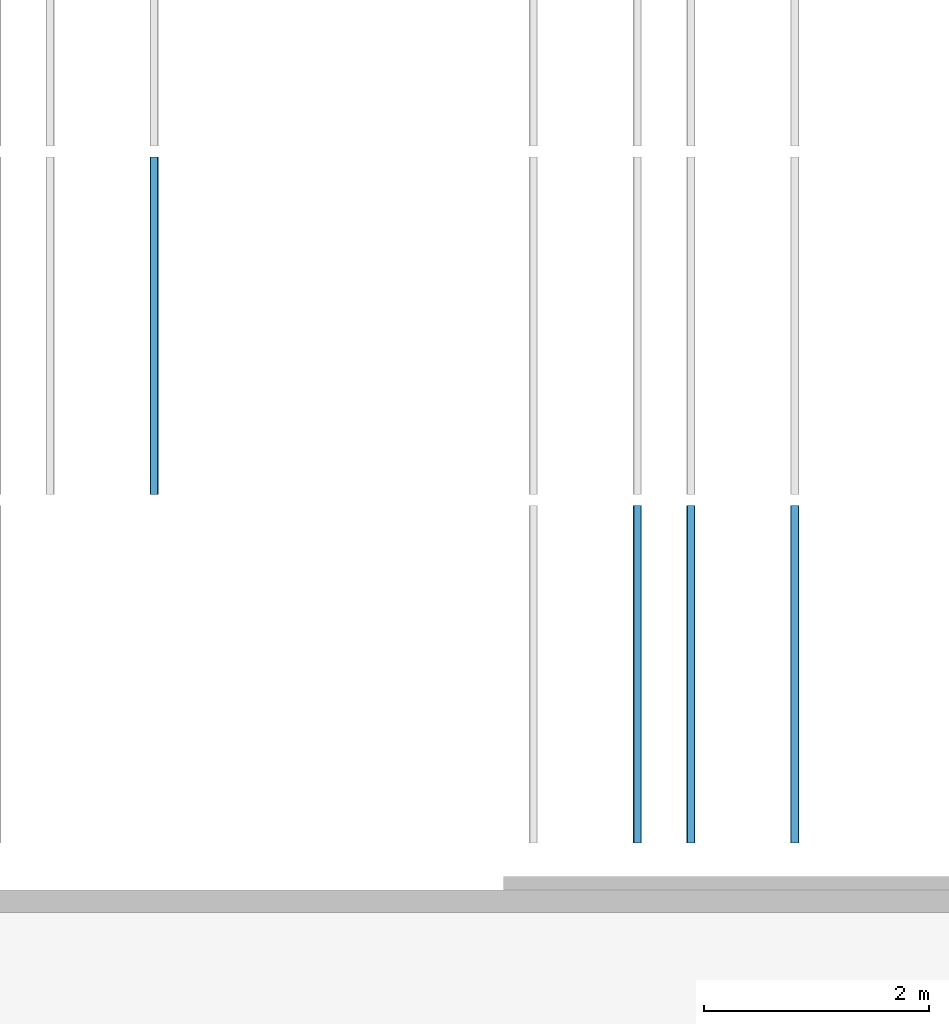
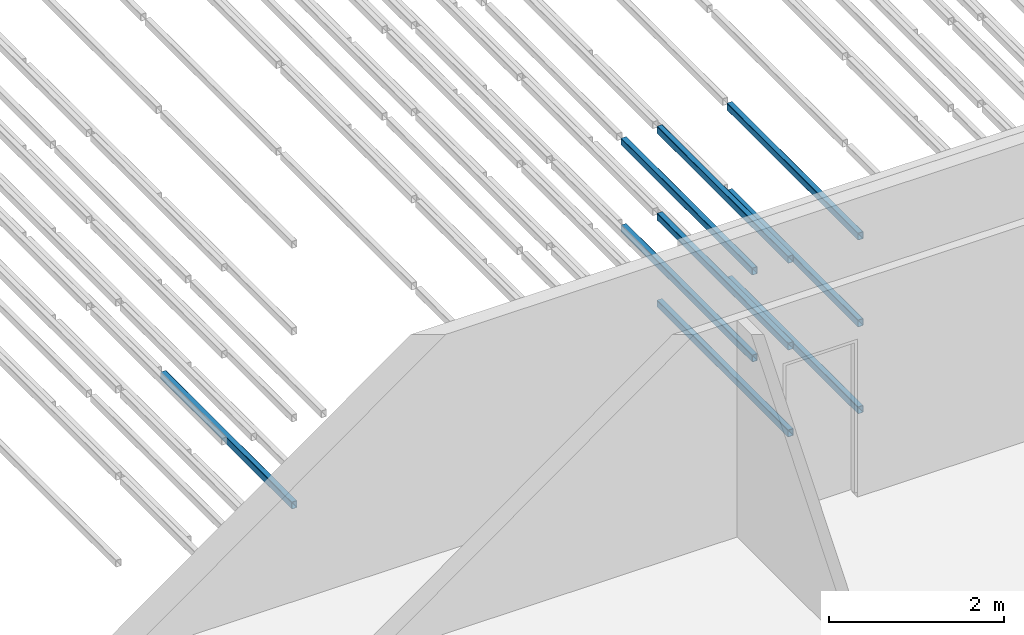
# One storey, part 24 of 290: 9 beams.
"""IFC2X3 building model written with IfcOpenShell, lengths in metres."""

from ifc_helpers import new_model, entity, si_unit, converted_unit, derived_unit, direction, frame, frame_2d, origin, place, context, subcontext, project, spatial, polyline, circle_curve, parameter, trimmed, segment, composite_curve, outline, extrude, material, type_object, element, save


model = new_model("IFC2X3")

# Units and contexts
model_context = context("Model", 3, precision=1e-05, world=origin(), true_north=direction((6.12303176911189e-17, 1.0)))
body_context = subcontext(model_context, "Body", "Model", "MODEL_VIEW")
ifc_project = project(units=[si_unit("LENGTHUNIT", "METRE"), si_unit("AREAUNIT", "SQUARE_METRE"), si_unit("VOLUMEUNIT", "CUBIC_METRE"), converted_unit("PLANEANGLEUNIT", "DEGREE", entity("IfcRatioMeasure", 0.0174532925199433), si_unit("PLANEANGLEUNIT", "RADIAN"), dimensions=[0, 0, 0, 0, 0, 0, 0]), si_unit("MASSUNIT", "GRAM", prefix="KILO"), derived_unit("MASSDENSITYUNIT", [(si_unit("MASSUNIT", "GRAM", prefix="KILO"), 1), (si_unit("LENGTHUNIT", "METRE"), -3)]), derived_unit("MOMENTOFINERTIAUNIT", [(si_unit("LENGTHUNIT", "METRE"), 4)]), si_unit("TIMEUNIT", "SECOND"), si_unit("FREQUENCYUNIT", "HERTZ"), si_unit("THERMODYNAMICTEMPERATUREUNIT", "DEGREE_CELSIUS"), derived_unit("THERMALTRANSMITTANCEUNIT", [(si_unit("MASSUNIT", "GRAM", prefix="KILO"), 1), (si_unit("THERMODYNAMICTEMPERATUREUNIT", "KELVIN"), -1), (si_unit("TIMEUNIT", "SECOND"), -3)]), derived_unit("VOLUMETRICFLOWRATEUNIT", [(si_unit("LENGTHUNIT", "METRE"), 3), (si_unit("TIMEUNIT", "SECOND"), -1)]), si_unit("ELECTRICCURRENTUNIT", "AMPERE"), si_unit("ELECTRICVOLTAGEUNIT", "VOLT"), si_unit("POWERUNIT", "WATT"), si_unit("FORCEUNIT", "NEWTON", prefix="KILO"), si_unit("ILLUMINANCEUNIT", "LUX"), si_unit("LUMINOUSFLUXUNIT", "LUMEN"), si_unit("LUMINOUSINTENSITYUNIT", "CANDELA"), derived_unit("USERDEFINED", [(si_unit("MASSUNIT", "GRAM", prefix="KILO"), -1), (si_unit("LENGTHUNIT", "METRE"), -2), (si_unit("TIMEUNIT", "SECOND"), 3), (si_unit("LUMINOUSFLUXUNIT", "LUMEN"), 1)]), derived_unit("LINEARVELOCITYUNIT", [(si_unit("LENGTHUNIT", "METRE"), 1), (si_unit("TIMEUNIT", "SECOND"), -1)]), si_unit("PRESSUREUNIT", "PASCAL"), derived_unit("USERDEFINED", [(si_unit("LENGTHUNIT", "METRE"), -2), (si_unit("MASSUNIT", "GRAM", prefix="KILO"), 1), (si_unit("TIMEUNIT", "SECOND"), -2)]), derived_unit("LINEARFORCEUNIT", [(si_unit("MASSUNIT", "GRAM", prefix="KILO"), 1), (si_unit("LENGTHUNIT", "METRE"), 1), (si_unit("TIMEUNIT", "SECOND"), -2), (si_unit("LENGTHUNIT", "METRE"), -1)]), derived_unit("PLANARFORCEUNIT", [(si_unit("MASSUNIT", "GRAM", prefix="KILO"), 1), (si_unit("LENGTHUNIT", "METRE"), 1), (si_unit("TIMEUNIT", "SECOND"), -2), (si_unit("LENGTHUNIT", "METRE"), -2)])], contexts=[model_context])

# Site, building, storey
site_placement = place(None, origin())
site = spatial("IfcSite", under=ifc_project, at=site_placement, Name="Default", CompositionType="ELEMENT")
building_placement = place(site_placement, origin())
building = spatial("IfcBuilding", under=site, at=building_placement, CompositionType="ELEMENT")
storey_placement = place(building_placement, frame((0.0, 0.0, 4.0)))
storey = spatial("IfcBuildingStorey", under=building, at=storey_placement, Name="01_OG", CompositionType="ELEMENT", Elevation=4.0)

# Beams
ifc_material = material(Name="Metall - Baustahl S235 blau")
beam_type = type_object("IfcBeamType", Name="RHS Träger (EN 10219-2):RHS 100 x 75 x 5", PredefinedType="NOTDEFINED")
beam_1_placement = place(storey_placement, frame((-189.865111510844, 24.048088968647, 1.23), z_axis=(0.0, 0.0, 1.0), x_axis=(0.0, 1.0, 0.0)))
element("IfcBeam", 1, at=beam_1_placement, inside=storey, type_object=beam_type, material=ifc_material, Name="RHS Träger (EN 10219-2):RHS 100 x 75 x 5", ObjectType="RHS Träger (EN 10219-2):RHS 100 x 75 x 5", context=body_context, shape_type="SweptSolid", body=[
    extrude(outline(composite_curve([segment(polyline([(-0.0399999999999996, -0.0374999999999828), (0.0399999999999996, -0.0374999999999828)]), True, "CONTINUOUS"), segment(trimmed(circle_curve(frame_2d((0.0399999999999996, -0.0274999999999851), x_axis=(0.0, 1.0)), 0.01), [parameter(180.0)], [parameter(270.0)], True, "PARAMETER"), True, "CONTINUOUS"), segment(polyline([(0.0500000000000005, -0.0274999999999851), (0.0500000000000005, 0.0274999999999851)]), True, "CONTINUOUS"), segment(trimmed(circle_curve(frame_2d((0.0399999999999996, 0.0274999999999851), x_axis=(0.0, 1.0)), 0.01), [parameter(270.0)], [parameter(4.07110999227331e-13)], True, "PARAMETER"), True, "CONTINUOUS"), segment(polyline([(0.0399999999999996, 0.0375000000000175), (-0.0399999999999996, 0.0375000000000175)]), True, "CONTINUOUS"), segment(trimmed(circle_curve(frame_2d((-0.0399999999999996, 0.0274999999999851), x_axis=(0.0, 1.0)), 0.01), [parameter(360.0)], [parameter(90.0000000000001)], True, "PARAMETER"), True, "CONTINUOUS"), segment(polyline([(-0.0499999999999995, 0.0274999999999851), (-0.0499999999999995, -0.0274999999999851)]), True, "CONTINUOUS"), segment(trimmed(circle_curve(frame_2d((-0.0399999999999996, -0.0274999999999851), x_axis=(0.0, 1.0)), 0.01), [parameter(90.0000000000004)], [parameter(180.0)], True, "PARAMETER"), True, "CONTINUOUS")], self_intersect=False), holes=[composite_curve([segment(trimmed(circle_curve(frame_2d((-0.0400000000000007, 0.0274999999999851), x_axis=(0.0, 1.0)), 0.005), [parameter(360.0)], [parameter(89.9999999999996)], True, "PARAMETER"), False, "CONTINUOUS"), segment(polyline([(-0.0400000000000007, 0.0325000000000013), (0.0399999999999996, 0.0325000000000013)]), True, "CONTINUOUS"), segment(trimmed(circle_curve(frame_2d((0.0399999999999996, 0.0274999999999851), x_axis=(0.0, 1.0)), 0.005), [parameter(270.0)], [parameter(0.0)], True, "PARAMETER"), False, "CONTINUOUS"), segment(polyline([(0.0449999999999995, 0.0274999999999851), (0.0449999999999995, -0.0274999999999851)]), True, "CONTINUOUS"), segment(trimmed(circle_curve(frame_2d((0.0399999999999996, -0.0274999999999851), x_axis=(0.0, 1.0)), 0.005), [parameter(180.0)], [parameter(269.999999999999)], True, "PARAMETER"), False, "CONTINUOUS"), segment(polyline([(0.0399999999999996, -0.0325000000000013), (-0.0400000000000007, -0.0325000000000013)]), True, "CONTINUOUS"), segment(trimmed(circle_curve(frame_2d((-0.0400000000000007, -0.0274999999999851), x_axis=(0.0, 1.0)), 0.005), [parameter(90.0000000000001)], [parameter(180.0)], True, "PARAMETER"), False, "CONTINUOUS"), segment(polyline([(-0.0450000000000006, -0.0274999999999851), (-0.0450000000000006, 0.0274999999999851)]), True, "CONTINUOUS")], self_intersect=False)]), frame((9.99999999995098e-05, -0.0375000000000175, -0.0500000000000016), z_axis=(1.0, 0.0, 0.0), x_axis=(0.0, 0.0, -1.0)), (0.0, 0.0, 1.0), 2.9998),
])
beam_2_placement = place(storey_placement, frame((-189.865111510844, 24.048088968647, 2.445), z_axis=(0.0, 0.0, 1.0), x_axis=(0.0, 1.0, 0.0)))
element("IfcBeam", 2, at=beam_2_placement, inside=storey, type_object=beam_type, material=ifc_material, Name="RHS Träger (EN 10219-2):RHS 100 x 75 x 5", ObjectType="RHS Träger (EN 10219-2):RHS 100 x 75 x 5", context=body_context, shape_type="SweptSolid", body=[
    extrude(outline(composite_curve([segment(polyline([(-0.0399999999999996, -0.0374999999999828), (0.0399999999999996, -0.0374999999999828)]), True, "CONTINUOUS"), segment(trimmed(circle_curve(frame_2d((0.0399999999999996, -0.0274999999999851), x_axis=(0.0, 1.0)), 0.01), [parameter(180.0)], [parameter(270.0)], True, "PARAMETER"), True, "CONTINUOUS"), segment(polyline([(0.0500000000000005, -0.0274999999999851), (0.0500000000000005, 0.0274999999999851)]), True, "CONTINUOUS"), segment(trimmed(circle_curve(frame_2d((0.0399999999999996, 0.0274999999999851), x_axis=(0.0, 1.0)), 0.01), [parameter(270.0)], [parameter(4.07110999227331e-13)], True, "PARAMETER"), True, "CONTINUOUS"), segment(polyline([(0.0399999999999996, 0.0375000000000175), (-0.0399999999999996, 0.0375000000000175)]), True, "CONTINUOUS"), segment(trimmed(circle_curve(frame_2d((-0.0399999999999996, 0.0274999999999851), x_axis=(0.0, 1.0)), 0.01), [parameter(360.0)], [parameter(90.0000000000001)], True, "PARAMETER"), True, "CONTINUOUS"), segment(polyline([(-0.0499999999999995, 0.0274999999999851), (-0.0499999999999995, -0.0274999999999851)]), True, "CONTINUOUS"), segment(trimmed(circle_curve(frame_2d((-0.0399999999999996, -0.0274999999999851), x_axis=(0.0, 1.0)), 0.01), [parameter(90.0000000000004)], [parameter(180.0)], True, "PARAMETER"), True, "CONTINUOUS")], self_intersect=False), holes=[composite_curve([segment(trimmed(circle_curve(frame_2d((-0.0400000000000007, 0.0274999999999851), x_axis=(0.0, 1.0)), 0.005), [parameter(360.0)], [parameter(89.9999999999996)], True, "PARAMETER"), False, "CONTINUOUS"), segment(polyline([(-0.0400000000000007, 0.0325000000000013), (0.0399999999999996, 0.0325000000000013)]), True, "CONTINUOUS"), segment(trimmed(circle_curve(frame_2d((0.0399999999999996, 0.0274999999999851), x_axis=(0.0, 1.0)), 0.005), [parameter(270.0)], [parameter(0.0)], True, "PARAMETER"), False, "CONTINUOUS"), segment(polyline([(0.0449999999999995, 0.0274999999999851), (0.0449999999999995, -0.0274999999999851)]), True, "CONTINUOUS"), segment(trimmed(circle_curve(frame_2d((0.0399999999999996, -0.0274999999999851), x_axis=(0.0, 1.0)), 0.005), [parameter(180.0)], [parameter(269.999999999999)], True, "PARAMETER"), False, "CONTINUOUS"), segment(polyline([(0.0399999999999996, -0.0325000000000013), (-0.0400000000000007, -0.0325000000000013)]), True, "CONTINUOUS"), segment(trimmed(circle_curve(frame_2d((-0.0400000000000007, -0.0274999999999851), x_axis=(0.0, 1.0)), 0.005), [parameter(90.0000000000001)], [parameter(180.0)], True, "PARAMETER"), False, "CONTINUOUS"), segment(polyline([(-0.0450000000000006, -0.0274999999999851), (-0.0450000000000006, 0.0274999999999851)]), True, "CONTINUOUS")], self_intersect=False)]), frame((9.99999999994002e-05, -0.0375000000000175, -0.0500000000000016), z_axis=(1.0, 0.0, 0.0), x_axis=(0.0, 0.0, -1.0)), (0.0, 0.0, 1.0), 2.9998),
])
beam_3_placement = place(storey_placement, frame((-189.315111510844, 24.048088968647, 0.0150000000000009), z_axis=(0.0, 0.0, 1.0), x_axis=(0.0, 1.0, 0.0)))
element("IfcBeam", 3, at=beam_3_placement, inside=storey, type_object=beam_type, material=ifc_material, Name="RHS Träger (EN 10219-2):RHS 100 x 75 x 5", ObjectType="RHS Träger (EN 10219-2):RHS 100 x 75 x 5", context=body_context, shape_type="SweptSolid", body=[
    extrude(outline(composite_curve([segment(trimmed(circle_curve(frame_2d((-0.0275000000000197, -0.0400000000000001), x_axis=(1.0, 0.0)), 0.01), [parameter(180.0)], [parameter(270.0)], True, "PARAMETER"), True, "CONTINUOUS"), segment(polyline([(-0.0275000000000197, -0.05), (0.0274999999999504, -0.05)]), True, "CONTINUOUS"), segment(trimmed(circle_curve(frame_2d((0.0274999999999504, -0.0400000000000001), x_axis=(1.0, 0.0)), 0.01), [parameter(270.0)], [parameter(5.08888749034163e-14)], True, "PARAMETER"), True, "CONTINUOUS"), segment(polyline([(0.0374999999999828, -0.0400000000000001), (0.0374999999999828, 0.0400000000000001)]), True, "CONTINUOUS"), segment(trimmed(circle_curve(frame_2d((0.0274999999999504, 0.0400000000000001), x_axis=(1.0, 0.0)), 0.01), [parameter(360.0)], [parameter(89.9999999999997)], True, "PARAMETER"), True, "CONTINUOUS"), segment(polyline([(0.0274999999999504, 0.05), (-0.0275000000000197, 0.05)]), True, "CONTINUOUS"), segment(trimmed(circle_curve(frame_2d((-0.0275000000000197, 0.0400000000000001), x_axis=(1.0, 0.0)), 0.01), [parameter(90.0000000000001)], [parameter(180.0)], True, "PARAMETER"), True, "CONTINUOUS"), segment(polyline([(-0.0375000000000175, 0.0400000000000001), (-0.0375000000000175, -0.0400000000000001)]), True, "CONTINUOUS")], self_intersect=False), holes=[composite_curve([segment(polyline([(0.0274999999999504, -0.0450000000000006), (-0.0275000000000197, -0.0450000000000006)]), True, "CONTINUOUS"), segment(trimmed(circle_curve(frame_2d((-0.0275000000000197, -0.0400000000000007), x_axis=(1.0, 0.0)), 0.005), [parameter(180.0)], [parameter(270.0)], True, "PARAMETER"), False, "CONTINUOUS"), segment(polyline([(-0.0325000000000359, -0.0400000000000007), (-0.0325000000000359, 0.039999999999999)]), True, "CONTINUOUS"), segment(trimmed(circle_curve(frame_2d((-0.0275000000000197, 0.039999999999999), x_axis=(1.0, 0.0)), 0.005), [parameter(90.0000000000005)], [parameter(180.0)], True, "PARAMETER"), False, "CONTINUOUS"), segment(polyline([(-0.0275000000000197, 0.044999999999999), (0.0274999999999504, 0.044999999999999)]), True, "CONTINUOUS"), segment(trimmed(circle_curve(frame_2d((0.0274999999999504, 0.039999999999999), x_axis=(1.0, 0.0)), 0.005), [parameter(0.0)], [parameter(90.0000000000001)], True, "PARAMETER"), False, "CONTINUOUS"), segment(polyline([(0.0324999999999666, 0.039999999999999), (0.0324999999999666, -0.0400000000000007)]), True, "CONTINUOUS"), segment(trimmed(circle_curve(frame_2d((0.0274999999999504, -0.0400000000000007), x_axis=(1.0, 0.0)), 0.005), [parameter(270.0)], [parameter(4.07110999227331e-13)], True, "PARAMETER"), False, "CONTINUOUS")], self_intersect=False)]), frame((9.99999999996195e-05, 0.0374999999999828, -0.0500000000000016), z_axis=(1.0, 0.0, 0.0), x_axis=(0.0, -1.0, 0.0)), (0.0, 0.0, 1.0), 2.9998),
])
beam_4_placement = place(storey_placement, frame((-189.315111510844, 24.048088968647, 1.23), z_axis=(0.0, 0.0, 1.0), x_axis=(0.0, 1.0, 0.0)))
element("IfcBeam", 4, at=beam_4_placement, inside=storey, type_object=beam_type, material=ifc_material, Name="RHS Träger (EN 10219-2):RHS 100 x 75 x 5", ObjectType="RHS Träger (EN 10219-2):RHS 100 x 75 x 5", context=body_context, shape_type="SweptSolid", body=[
    extrude(outline(composite_curve([segment(trimmed(circle_curve(frame_2d((-0.0275000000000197, -0.0399999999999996), x_axis=(1.0, 0.0)), 0.01), [parameter(180.0)], [parameter(270.0)], True, "PARAMETER"), True, "CONTINUOUS"), segment(polyline([(-0.0275000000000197, -0.0499999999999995), (0.0274999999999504, -0.0499999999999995)]), True, "CONTINUOUS"), segment(trimmed(circle_curve(frame_2d((0.0274999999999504, -0.0399999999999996), x_axis=(1.0, 0.0)), 0.01), [parameter(270.0)], [parameter(5.08888749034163e-14)], True, "PARAMETER"), True, "CONTINUOUS"), segment(polyline([(0.0374999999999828, -0.0399999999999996), (0.0374999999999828, 0.0399999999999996)]), True, "CONTINUOUS"), segment(trimmed(circle_curve(frame_2d((0.0274999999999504, 0.0399999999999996), x_axis=(1.0, 0.0)), 0.01), [parameter(360.0)], [parameter(89.9999999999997)], True, "PARAMETER"), True, "CONTINUOUS"), segment(polyline([(0.0274999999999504, 0.0500000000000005), (-0.0275000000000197, 0.0500000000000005)]), True, "CONTINUOUS"), segment(trimmed(circle_curve(frame_2d((-0.0275000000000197, 0.0399999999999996), x_axis=(1.0, 0.0)), 0.01), [parameter(90.0000000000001)], [parameter(180.0)], True, "PARAMETER"), True, "CONTINUOUS"), segment(polyline([(-0.0375000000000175, 0.0399999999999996), (-0.0375000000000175, -0.0399999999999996)]), True, "CONTINUOUS")], self_intersect=False), holes=[composite_curve([segment(polyline([(0.0274999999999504, -0.0450000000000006), (-0.0275000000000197, -0.0450000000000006)]), True, "CONTINUOUS"), segment(trimmed(circle_curve(frame_2d((-0.0275000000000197, -0.0400000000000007), x_axis=(1.0, 0.0)), 0.005), [parameter(180.0)], [parameter(270.0)], True, "PARAMETER"), False, "CONTINUOUS"), segment(polyline([(-0.0325000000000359, -0.0400000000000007), (-0.0325000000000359, 0.0399999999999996)]), True, "CONTINUOUS"), segment(trimmed(circle_curve(frame_2d((-0.0275000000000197, 0.0399999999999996), x_axis=(1.0, 0.0)), 0.005), [parameter(90.0000000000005)], [parameter(180.0)], True, "PARAMETER"), False, "CONTINUOUS"), segment(polyline([(-0.0275000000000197, 0.0449999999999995), (0.0274999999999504, 0.0449999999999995)]), True, "CONTINUOUS"), segment(trimmed(circle_curve(frame_2d((0.0274999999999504, 0.0399999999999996), x_axis=(1.0, 0.0)), 0.005), [parameter(0.0)], [parameter(90.0000000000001)], True, "PARAMETER"), False, "CONTINUOUS"), segment(polyline([(0.0324999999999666, 0.0399999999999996), (0.0324999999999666, -0.0400000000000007)]), True, "CONTINUOUS"), segment(trimmed(circle_curve(frame_2d((0.0274999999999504, -0.0400000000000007), x_axis=(1.0, 0.0)), 0.005), [parameter(270.0)], [parameter(4.07110999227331e-13)], True, "PARAMETER"), False, "CONTINUOUS")], self_intersect=False)]), frame((9.99999999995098e-05, 0.0374999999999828, -0.0500000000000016), z_axis=(1.0, 0.0, 0.0), x_axis=(0.0, -1.0, 0.0)), (0.0, 0.0, 1.0), 2.9998),
])
beam_5_placement = place(storey_placement, frame((-189.315111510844, 24.048088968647, 2.445), z_axis=(0.0, 0.0, 1.0), x_axis=(0.0, 1.0, 0.0)))
element("IfcBeam", 5, at=beam_5_placement, inside=storey, type_object=beam_type, material=ifc_material, Name="RHS Träger (EN 10219-2):RHS 100 x 75 x 5", ObjectType="RHS Träger (EN 10219-2):RHS 100 x 75 x 5", context=body_context, shape_type="SweptSolid", body=[
    extrude(outline(composite_curve([segment(trimmed(circle_curve(frame_2d((-0.0275000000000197, -0.0399999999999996), x_axis=(1.0, 0.0)), 0.01), [parameter(180.0)], [parameter(270.0)], True, "PARAMETER"), True, "CONTINUOUS"), segment(polyline([(-0.0275000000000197, -0.0499999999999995), (0.0274999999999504, -0.0499999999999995)]), True, "CONTINUOUS"), segment(trimmed(circle_curve(frame_2d((0.0274999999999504, -0.0399999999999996), x_axis=(1.0, 0.0)), 0.01), [parameter(270.0)], [parameter(5.08888749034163e-14)], True, "PARAMETER"), True, "CONTINUOUS"), segment(polyline([(0.0374999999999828, -0.0399999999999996), (0.0374999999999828, 0.0399999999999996)]), True, "CONTINUOUS"), segment(trimmed(circle_curve(frame_2d((0.0274999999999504, 0.0399999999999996), x_axis=(1.0, 0.0)), 0.01), [parameter(360.0)], [parameter(89.9999999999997)], True, "PARAMETER"), True, "CONTINUOUS"), segment(polyline([(0.0274999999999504, 0.0500000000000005), (-0.0275000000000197, 0.0500000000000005)]), True, "CONTINUOUS"), segment(trimmed(circle_curve(frame_2d((-0.0275000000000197, 0.0399999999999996), x_axis=(1.0, 0.0)), 0.01), [parameter(90.0000000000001)], [parameter(180.0)], True, "PARAMETER"), True, "CONTINUOUS"), segment(polyline([(-0.0375000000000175, 0.0399999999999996), (-0.0375000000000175, -0.0399999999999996)]), True, "CONTINUOUS")], self_intersect=False), holes=[composite_curve([segment(polyline([(0.0274999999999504, -0.0450000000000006), (-0.0275000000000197, -0.0450000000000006)]), True, "CONTINUOUS"), segment(trimmed(circle_curve(frame_2d((-0.0275000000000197, -0.0400000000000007), x_axis=(1.0, 0.0)), 0.005), [parameter(180.0)], [parameter(270.0)], True, "PARAMETER"), False, "CONTINUOUS"), segment(polyline([(-0.0325000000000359, -0.0400000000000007), (-0.0325000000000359, 0.0399999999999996)]), True, "CONTINUOUS"), segment(trimmed(circle_curve(frame_2d((-0.0275000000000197, 0.0399999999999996), x_axis=(1.0, 0.0)), 0.005), [parameter(90.0000000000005)], [parameter(180.0)], True, "PARAMETER"), False, "CONTINUOUS"), segment(polyline([(-0.0275000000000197, 0.0449999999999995), (0.0274999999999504, 0.0449999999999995)]), True, "CONTINUOUS"), segment(trimmed(circle_curve(frame_2d((0.0274999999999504, 0.0399999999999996), x_axis=(1.0, 0.0)), 0.005), [parameter(0.0)], [parameter(90.0000000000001)], True, "PARAMETER"), False, "CONTINUOUS"), segment(polyline([(0.0324999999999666, 0.0399999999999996), (0.0324999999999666, -0.0400000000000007)]), True, "CONTINUOUS"), segment(trimmed(circle_curve(frame_2d((0.0274999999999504, -0.0400000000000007), x_axis=(1.0, 0.0)), 0.005), [parameter(270.0)], [parameter(4.07110999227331e-13)], True, "PARAMETER"), False, "CONTINUOUS")], self_intersect=False)]), frame((9.99999999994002e-05, 0.0374999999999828, -0.0500000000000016), z_axis=(1.0, 0.0, 0.0), x_axis=(0.0, -1.0, 0.0)), (0.0, 0.0, 1.0), 2.9998),
])
beam_6_placement = place(storey_placement, frame((-188.465111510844, 24.048088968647, 0.0150000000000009), z_axis=(0.0, 0.0, 1.0), x_axis=(0.0, 1.0, 0.0)))
element("IfcBeam", 6, at=beam_6_placement, inside=storey, type_object=beam_type, material=ifc_material, Name="RHS Träger (EN 10219-2):RHS 100 x 75 x 5", ObjectType="RHS Träger (EN 10219-2):RHS 100 x 75 x 5", context=body_context, shape_type="SweptSolid", body=[
    extrude(outline(composite_curve([segment(polyline([(-0.0400000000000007, -0.0374999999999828), (0.0399999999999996, -0.0374999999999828)]), True, "CONTINUOUS"), segment(trimmed(circle_curve(frame_2d((0.0399999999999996, -0.0274999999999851), x_axis=(0.0, 1.0)), 0.01), [parameter(180.0)], [parameter(270.0)], True, "PARAMETER"), True, "CONTINUOUS"), segment(polyline([(0.0499999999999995, -0.0274999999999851), (0.0499999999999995, 0.0274999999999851)]), True, "CONTINUOUS"), segment(trimmed(circle_curve(frame_2d((0.0399999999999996, 0.0274999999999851), x_axis=(0.0, 1.0)), 0.01), [parameter(270.0)], [parameter(4.07110999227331e-13)], True, "PARAMETER"), True, "CONTINUOUS"), segment(polyline([(0.0399999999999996, 0.0375000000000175), (-0.0400000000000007, 0.0375000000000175)]), True, "CONTINUOUS"), segment(trimmed(circle_curve(frame_2d((-0.0400000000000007, 0.0274999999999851), x_axis=(0.0, 1.0)), 0.01), [parameter(360.0)], [parameter(90.0000000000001)], True, "PARAMETER"), True, "CONTINUOUS"), segment(polyline([(-0.0500000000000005, 0.0274999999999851), (-0.0500000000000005, -0.0274999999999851)]), True, "CONTINUOUS"), segment(trimmed(circle_curve(frame_2d((-0.0400000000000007, -0.0274999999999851), x_axis=(0.0, 1.0)), 0.01), [parameter(90.0000000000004)], [parameter(180.0)], True, "PARAMETER"), True, "CONTINUOUS")], self_intersect=False), holes=[composite_curve([segment(trimmed(circle_curve(frame_2d((-0.0400000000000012, 0.0274999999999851), x_axis=(0.0, 1.0)), 0.005), [parameter(360.0)], [parameter(89.9999999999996)], True, "PARAMETER"), False, "CONTINUOUS"), segment(polyline([(-0.0400000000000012, 0.0325000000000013), (0.0399999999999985, 0.0325000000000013)]), True, "CONTINUOUS"), segment(trimmed(circle_curve(frame_2d((0.0399999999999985, 0.0274999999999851), x_axis=(0.0, 1.0)), 0.005), [parameter(270.0)], [parameter(0.0)], True, "PARAMETER"), False, "CONTINUOUS"), segment(polyline([(0.0449999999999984, 0.0274999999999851), (0.0449999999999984, -0.0274999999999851)]), True, "CONTINUOUS"), segment(trimmed(circle_curve(frame_2d((0.0399999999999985, -0.0274999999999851), x_axis=(0.0, 1.0)), 0.005), [parameter(180.0)], [parameter(269.999999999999)], True, "PARAMETER"), False, "CONTINUOUS"), segment(polyline([(0.0399999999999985, -0.0325000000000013), (-0.0400000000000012, -0.0325000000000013)]), True, "CONTINUOUS"), segment(trimmed(circle_curve(frame_2d((-0.0400000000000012, -0.0274999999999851), x_axis=(0.0, 1.0)), 0.005), [parameter(90.0000000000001)], [parameter(180.0)], True, "PARAMETER"), False, "CONTINUOUS"), segment(polyline([(-0.0450000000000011, -0.0274999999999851), (-0.0450000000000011, 0.0274999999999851)]), True, "CONTINUOUS")], self_intersect=False)]), frame((9.99999999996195e-05, -0.0375000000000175, -0.0500000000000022), z_axis=(1.0, 0.0, 0.0), x_axis=(0.0, 0.0, -1.0)), (0.0, 0.0, 1.0), 2.9998),
])
beam_7_placement = place(storey_placement, frame((-188.465111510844, 24.048088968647, 1.23), z_axis=(0.0, 0.0, 1.0), x_axis=(0.0, 1.0, 0.0)))
element("IfcBeam", 7, at=beam_7_placement, inside=storey, type_object=beam_type, material=ifc_material, Name="RHS Träger (EN 10219-2):RHS 100 x 75 x 5", ObjectType="RHS Träger (EN 10219-2):RHS 100 x 75 x 5", context=body_context, shape_type="SweptSolid", body=[
    extrude(outline(composite_curve([segment(polyline([(-0.0399999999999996, -0.0374999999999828), (0.0399999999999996, -0.0374999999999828)]), True, "CONTINUOUS"), segment(trimmed(circle_curve(frame_2d((0.0399999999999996, -0.0274999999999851), x_axis=(0.0, 1.0)), 0.01), [parameter(180.0)], [parameter(270.0)], True, "PARAMETER"), True, "CONTINUOUS"), segment(polyline([(0.0500000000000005, -0.0274999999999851), (0.0500000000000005, 0.0274999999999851)]), True, "CONTINUOUS"), segment(trimmed(circle_curve(frame_2d((0.0399999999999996, 0.0274999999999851), x_axis=(0.0, 1.0)), 0.01), [parameter(270.0)], [parameter(4.07110999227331e-13)], True, "PARAMETER"), True, "CONTINUOUS"), segment(polyline([(0.0399999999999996, 0.0375000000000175), (-0.0399999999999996, 0.0375000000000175)]), True, "CONTINUOUS"), segment(trimmed(circle_curve(frame_2d((-0.0399999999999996, 0.0274999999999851), x_axis=(0.0, 1.0)), 0.01), [parameter(360.0)], [parameter(90.0000000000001)], True, "PARAMETER"), True, "CONTINUOUS"), segment(polyline([(-0.0499999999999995, 0.0274999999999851), (-0.0499999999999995, -0.0274999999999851)]), True, "CONTINUOUS"), segment(trimmed(circle_curve(frame_2d((-0.0399999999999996, -0.0274999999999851), x_axis=(0.0, 1.0)), 0.01), [parameter(90.0000000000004)], [parameter(180.0)], True, "PARAMETER"), True, "CONTINUOUS")], self_intersect=False), holes=[composite_curve([segment(trimmed(circle_curve(frame_2d((-0.0400000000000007, 0.0274999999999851), x_axis=(0.0, 1.0)), 0.005), [parameter(360.0)], [parameter(89.9999999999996)], True, "PARAMETER"), False, "CONTINUOUS"), segment(polyline([(-0.0400000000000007, 0.0325000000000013), (0.0399999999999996, 0.0325000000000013)]), True, "CONTINUOUS"), segment(trimmed(circle_curve(frame_2d((0.0399999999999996, 0.0274999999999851), x_axis=(0.0, 1.0)), 0.005), [parameter(270.0)], [parameter(0.0)], True, "PARAMETER"), False, "CONTINUOUS"), segment(polyline([(0.0449999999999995, 0.0274999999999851), (0.0449999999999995, -0.0274999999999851)]), True, "CONTINUOUS"), segment(trimmed(circle_curve(frame_2d((0.0399999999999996, -0.0274999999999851), x_axis=(0.0, 1.0)), 0.005), [parameter(180.0)], [parameter(269.999999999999)], True, "PARAMETER"), False, "CONTINUOUS"), segment(polyline([(0.0399999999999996, -0.0325000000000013), (-0.0400000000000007, -0.0325000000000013)]), True, "CONTINUOUS"), segment(trimmed(circle_curve(frame_2d((-0.0400000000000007, -0.0274999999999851), x_axis=(0.0, 1.0)), 0.005), [parameter(90.0000000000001)], [parameter(180.0)], True, "PARAMETER"), False, "CONTINUOUS"), segment(polyline([(-0.0450000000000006, -0.0274999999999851), (-0.0450000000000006, 0.0274999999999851)]), True, "CONTINUOUS")], self_intersect=False)]), frame((9.99999999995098e-05, -0.0375000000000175, -0.0500000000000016), z_axis=(1.0, 0.0, 0.0), x_axis=(0.0, 0.0, -1.0)), (0.0, 0.0, 1.0), 2.9998),
])
beam_8_placement = place(storey_placement, frame((-188.465111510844, 24.048088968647, 2.445), z_axis=(0.0, 0.0, 1.0), x_axis=(0.0, 1.0, 0.0)))
element("IfcBeam", 8, at=beam_8_placement, inside=storey, type_object=beam_type, material=ifc_material, Name="RHS Träger (EN 10219-2):RHS 100 x 75 x 5", ObjectType="RHS Träger (EN 10219-2):RHS 100 x 75 x 5", context=body_context, shape_type="SweptSolid", body=[
    extrude(outline(composite_curve([segment(polyline([(-0.0399999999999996, -0.0374999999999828), (0.0399999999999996, -0.0374999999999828)]), True, "CONTINUOUS"), segment(trimmed(circle_curve(frame_2d((0.0399999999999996, -0.0274999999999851), x_axis=(0.0, 1.0)), 0.01), [parameter(180.0)], [parameter(270.0)], True, "PARAMETER"), True, "CONTINUOUS"), segment(polyline([(0.0500000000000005, -0.0274999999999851), (0.0500000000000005, 0.0274999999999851)]), True, "CONTINUOUS"), segment(trimmed(circle_curve(frame_2d((0.0399999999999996, 0.0274999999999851), x_axis=(0.0, 1.0)), 0.01), [parameter(270.0)], [parameter(4.07110999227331e-13)], True, "PARAMETER"), True, "CONTINUOUS"), segment(polyline([(0.0399999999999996, 0.0375000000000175), (-0.0399999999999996, 0.0375000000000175)]), True, "CONTINUOUS"), segment(trimmed(circle_curve(frame_2d((-0.0399999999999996, 0.0274999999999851), x_axis=(0.0, 1.0)), 0.01), [parameter(360.0)], [parameter(90.0000000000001)], True, "PARAMETER"), True, "CONTINUOUS"), segment(polyline([(-0.0499999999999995, 0.0274999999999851), (-0.0499999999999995, -0.0274999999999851)]), True, "CONTINUOUS"), segment(trimmed(circle_curve(frame_2d((-0.0399999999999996, -0.0274999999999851), x_axis=(0.0, 1.0)), 0.01), [parameter(90.0000000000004)], [parameter(180.0)], True, "PARAMETER"), True, "CONTINUOUS")], self_intersect=False), holes=[composite_curve([segment(trimmed(circle_curve(frame_2d((-0.0400000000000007, 0.0274999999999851), x_axis=(0.0, 1.0)), 0.005), [parameter(360.0)], [parameter(89.9999999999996)], True, "PARAMETER"), False, "CONTINUOUS"), segment(polyline([(-0.0400000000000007, 0.0325000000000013), (0.0399999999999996, 0.0325000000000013)]), True, "CONTINUOUS"), segment(trimmed(circle_curve(frame_2d((0.0399999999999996, 0.0274999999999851), x_axis=(0.0, 1.0)), 0.005), [parameter(270.0)], [parameter(0.0)], True, "PARAMETER"), False, "CONTINUOUS"), segment(polyline([(0.0449999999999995, 0.0274999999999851), (0.0449999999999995, -0.0274999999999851)]), True, "CONTINUOUS"), segment(trimmed(circle_curve(frame_2d((0.0399999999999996, -0.0274999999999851), x_axis=(0.0, 1.0)), 0.005), [parameter(180.0)], [parameter(269.999999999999)], True, "PARAMETER"), False, "CONTINUOUS"), segment(polyline([(0.0399999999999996, -0.0325000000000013), (-0.0400000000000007, -0.0325000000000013)]), True, "CONTINUOUS"), segment(trimmed(circle_curve(frame_2d((-0.0400000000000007, -0.0274999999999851), x_axis=(0.0, 1.0)), 0.005), [parameter(90.0000000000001)], [parameter(180.0)], True, "PARAMETER"), False, "CONTINUOUS"), segment(polyline([(-0.0450000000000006, -0.0274999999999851), (-0.0450000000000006, 0.0274999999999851)]), True, "CONTINUOUS")], self_intersect=False)]), frame((9.99999999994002e-05, -0.0375000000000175, -0.0500000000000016), z_axis=(1.0, 0.0, 0.0), x_axis=(0.0, 0.0, -1.0)), (0.0, 0.0, 1.0), 2.9998),
])
beam_9_placement = place(storey_placement, frame((-194.165111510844, 27.148088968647, -1.2), z_axis=(0.0, 0.0, 1.0), x_axis=(0.0, 1.0, 0.0)))
element("IfcBeam", 9, at=beam_9_placement, inside=storey, type_object=beam_type, material=ifc_material, Name="RHS Träger (EN 10219-2):RHS 100 x 75 x 5", ObjectType="RHS Träger (EN 10219-2):RHS 100 x 75 x 5", context=body_context, shape_type="SweptSolid", body=[
    extrude(outline(composite_curve([segment(polyline([(-0.0400000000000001, -0.0374999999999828), (0.0400000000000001, -0.0374999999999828)]), True, "CONTINUOUS"), segment(trimmed(circle_curve(frame_2d((0.0400000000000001, -0.0274999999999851), x_axis=(0.0, 1.0)), 0.01), [parameter(180.0)], [parameter(270.0)], True, "PARAMETER"), True, "CONTINUOUS"), segment(polyline([(0.05, -0.0274999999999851), (0.05, 0.0274999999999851)]), True, "CONTINUOUS"), segment(trimmed(circle_curve(frame_2d((0.0400000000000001, 0.0274999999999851), x_axis=(0.0, 1.0)), 0.01), [parameter(270.0)], [parameter(4.07110999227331e-13)], True, "PARAMETER"), True, "CONTINUOUS"), segment(polyline([(0.0400000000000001, 0.0375000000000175), (-0.0400000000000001, 0.0375000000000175)]), True, "CONTINUOUS"), segment(trimmed(circle_curve(frame_2d((-0.0400000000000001, 0.0274999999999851), x_axis=(0.0, 1.0)), 0.01), [parameter(360.0)], [parameter(90.0000000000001)], True, "PARAMETER"), True, "CONTINUOUS"), segment(polyline([(-0.05, 0.0274999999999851), (-0.05, -0.0274999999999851)]), True, "CONTINUOUS"), segment(trimmed(circle_curve(frame_2d((-0.0400000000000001, -0.0274999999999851), x_axis=(0.0, 1.0)), 0.01), [parameter(90.0000000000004)], [parameter(180.0)], True, "PARAMETER"), True, "CONTINUOUS")], self_intersect=False), holes=[composite_curve([segment(trimmed(circle_curve(frame_2d((-0.0400000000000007, 0.0274999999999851), x_axis=(0.0, 1.0)), 0.005), [parameter(360.0)], [parameter(89.9999999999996)], True, "PARAMETER"), False, "CONTINUOUS"), segment(polyline([(-0.0400000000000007, 0.0325000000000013), (0.039999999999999, 0.0325000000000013)]), True, "CONTINUOUS"), segment(trimmed(circle_curve(frame_2d((0.039999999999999, 0.0274999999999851), x_axis=(0.0, 1.0)), 0.005), [parameter(270.0)], [parameter(0.0)], True, "PARAMETER"), False, "CONTINUOUS"), segment(polyline([(0.044999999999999, 0.0274999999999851), (0.044999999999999, -0.0274999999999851)]), True, "CONTINUOUS"), segment(trimmed(circle_curve(frame_2d((0.039999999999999, -0.0274999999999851), x_axis=(0.0, 1.0)), 0.005), [parameter(180.0)], [parameter(269.999999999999)], True, "PARAMETER"), False, "CONTINUOUS"), segment(polyline([(0.039999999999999, -0.0325000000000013), (-0.0400000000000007, -0.0325000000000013)]), True, "CONTINUOUS"), segment(trimmed(circle_curve(frame_2d((-0.0400000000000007, -0.0274999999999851), x_axis=(0.0, 1.0)), 0.005), [parameter(90.0000000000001)], [parameter(180.0)], True, "PARAMETER"), False, "CONTINUOUS"), segment(polyline([(-0.0450000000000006, -0.0274999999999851), (-0.0450000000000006, 0.0274999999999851)]), True, "CONTINUOUS")], self_intersect=False)]), frame((0.000100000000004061, -0.0375000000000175, -0.0500000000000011), z_axis=(1.0, 0.0, 0.0), x_axis=(0.0, 0.0, -1.0)), (0.0, 0.0, 1.0), 2.9998),
])

save(model, "model.ifc")
